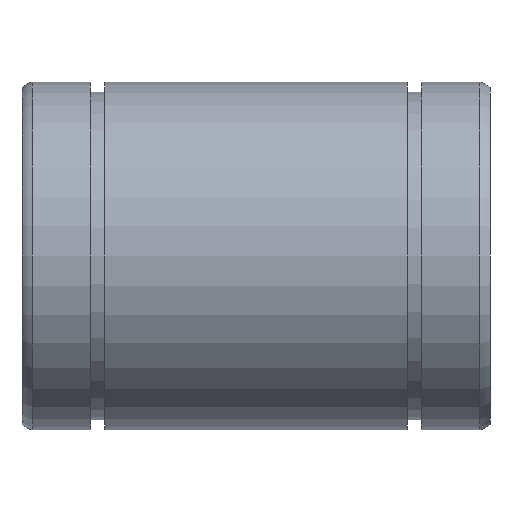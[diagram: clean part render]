
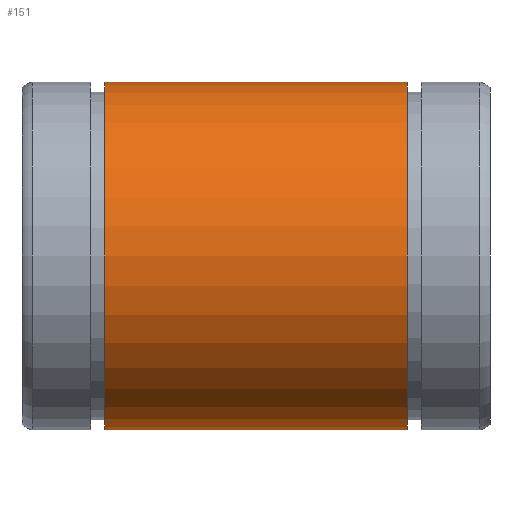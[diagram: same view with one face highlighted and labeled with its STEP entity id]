
A CAD part, front view. The second image highlights one B-rep face of the part: STEP entity #151.
In plain terms, the highlighted cylindrical face has radius 26 mm (diameter 52 mm), a full revolution.
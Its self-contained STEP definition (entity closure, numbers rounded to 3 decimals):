
#117=CARTESIAN_POINT('',(57.65,0.0,26.0));
#118=VERTEX_POINT('',#117);
#119=CARTESIAN_POINT('',(57.65,0.0,0.));
#120=DIRECTION('',(-1.0,0.0,0.0));
#121=DIRECTION('',(0.0,0.0,1.0));
#122=AXIS2_PLACEMENT_3D('',#119,#120,#121);
#123=CIRCLE('',#122,26.);
#124=EDGE_CURVE('',#118,#118,#123,.T.);
#132=CARTESIAN_POINT('',(35.,0.0,0.));
#133=DIRECTION('',(-1.0,0.0,0.0));
#134=DIRECTION('',(0.0,0.0,1.0));
#135=AXIS2_PLACEMENT_3D('',#132,#133,#134);
#136=CYLINDRICAL_SURFACE('',#135,26.);
#137=CARTESIAN_POINT('',(12.35,0.0,26.));
#138=VERTEX_POINT('',#137);
#139=CARTESIAN_POINT('',(12.35,0.0,0.));
#140=DIRECTION('',(-1.0,0.0,0.0));
#141=DIRECTION('',(0.0,0.0,1.0));
#142=AXIS2_PLACEMENT_3D('',#139,#140,#141);
#143=CIRCLE('',#142,26.);
#144=EDGE_CURVE('',#138,#138,#143,.T.);
#145=ORIENTED_EDGE('',*,*,#144,.F.);
#146=EDGE_LOOP('',(#145));
#147=FACE_OUTER_BOUND('',#146,.T.);
#148=ORIENTED_EDGE('',*,*,#124,.T.);
#149=EDGE_LOOP('',(#148));
#150=FACE_BOUND('',#149,.T.);
#151=ADVANCED_FACE('',(#147,#150),#136,.T.);
